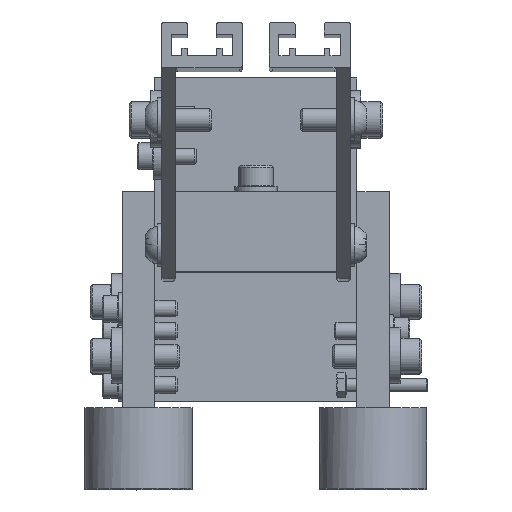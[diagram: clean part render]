
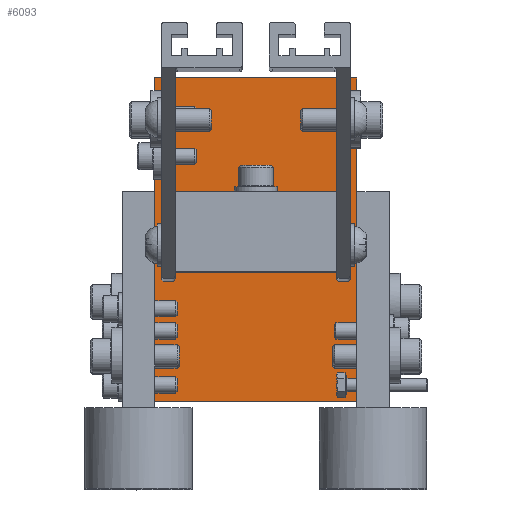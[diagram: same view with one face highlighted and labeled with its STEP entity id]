
A CAD part, top view. The second image highlights one B-rep face of the part: STEP entity #6093.
In plain terms, the highlighted planar face has unit normal (0, 0, 1).
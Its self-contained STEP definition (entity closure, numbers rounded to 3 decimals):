
#363=LINE('',#10054,#747);
#366=LINE('',#10060,#750);
#432=LINE('',#10274,#816);
#433=LINE('',#10276,#817);
#434=LINE('',#10278,#818);
#435=LINE('',#10280,#819);
#436=LINE('',#10282,#820);
#437=LINE('',#10284,#821);
#438=LINE('',#10286,#822);
#439=LINE('',#10287,#823);
#747=VECTOR('',#8121,1000.);
#750=VECTOR('',#8124,1000.);
#816=VECTOR('',#8274,1000.);
#817=VECTOR('',#8275,1000.);
#818=VECTOR('',#8276,1000.);
#819=VECTOR('',#8277,1000.);
#820=VECTOR('',#8278,1000.);
#821=VECTOR('',#8279,1000.);
#822=VECTOR('',#8280,1000.);
#823=VECTOR('',#8281,1000.);
#1049=PLANE('',#6753);
#2072=ORIENTED_EDGE('',*,*,#3230,.F.);
#2073=ORIENTED_EDGE('',*,*,#3231,.T.);
#2074=ORIENTED_EDGE('',*,*,#3232,.T.);
#2075=ORIENTED_EDGE('',*,*,#3233,.T.);
#2076=ORIENTED_EDGE('',*,*,#3234,.F.);
#2077=ORIENTED_EDGE('',*,*,#3235,.T.);
#2078=ORIENTED_EDGE('',*,*,#3236,.T.);
#2079=ORIENTED_EDGE('',*,*,#3134,.F.);
#2080=ORIENTED_EDGE('',*,*,#3237,.F.);
#2081=ORIENTED_EDGE('',*,*,#3131,.F.);
#3131=EDGE_CURVE('',#3804,#3805,#363,.T.);
#3134=EDGE_CURVE('',#3806,#3807,#366,.T.);
#3230=EDGE_CURVE('',#3895,#3804,#432,.T.);
#3231=EDGE_CURVE('',#3895,#3896,#433,.T.);
#3232=EDGE_CURVE('',#3896,#3897,#434,.T.);
#3233=EDGE_CURVE('',#3897,#3898,#435,.T.);
#3234=EDGE_CURVE('',#3899,#3898,#436,.T.);
#3235=EDGE_CURVE('',#3899,#3900,#437,.T.);
#3236=EDGE_CURVE('',#3900,#3807,#438,.T.);
#3237=EDGE_CURVE('',#3805,#3806,#439,.T.);
#3804=VERTEX_POINT('',#10055);
#3805=VERTEX_POINT('',#10056);
#3806=VERTEX_POINT('',#10059);
#3807=VERTEX_POINT('',#10061);
#3895=VERTEX_POINT('',#10275);
#3896=VERTEX_POINT('',#10277);
#3897=VERTEX_POINT('',#10279);
#3898=VERTEX_POINT('',#10281);
#3899=VERTEX_POINT('',#10283);
#3900=VERTEX_POINT('',#10285);
#4764=EDGE_LOOP('',(#2072,#2073,#2074,#2075,#2076,#2077,#2078,#2079,#2080,
#2081));
#5448=FACE_BOUND('',#4764,.T.);
#6093=ADVANCED_FACE('',(#5448),#1049,.T.);
#6753=AXIS2_PLACEMENT_3D('',#10273,#8272,#8273);
#8121=DIRECTION('',(0.,1.,0.));
#8124=DIRECTION('',(0.,1.,0.));
#8272=DIRECTION('',(0.,0.,1.));
#8273=DIRECTION('',(1.,0.,0.));
#8274=DIRECTION('',(-1.,0.,0.));
#8275=DIRECTION('',(0.,1.,0.));
#8276=DIRECTION('',(0.,1.,0.));
#8277=DIRECTION('',(0.,1.,0.));
#8278=DIRECTION('',(0.,-1.,0.));
#8279=DIRECTION('',(-1.,0.,0.));
#8280=DIRECTION('',(0.,-1.,0.));
#8281=DIRECTION('',(0.,1.,0.));
#10054=CARTESIAN_POINT('',(-37.5,-19.5,-735.));
#10055=CARTESIAN_POINT('',(-37.5,-139.5,-735.));
#10056=CARTESIAN_POINT('',(-37.5,-106.75,-735.));
#10059=CARTESIAN_POINT('',(-37.5,-98.25,-735.));
#10060=CARTESIAN_POINT('',(-37.5,-19.5,-735.));
#10061=CARTESIAN_POINT('',(-37.5,-62.5,-735.));
#10273=CARTESIAN_POINT('',(37.5,-19.5,-735.));
#10274=CARTESIAN_POINT('',(37.5,-139.5,-735.));
#10275=CARTESIAN_POINT('',(37.5,-139.5,-735.));
#10276=CARTESIAN_POINT('',(37.5,-19.5,-735.));
#10277=CARTESIAN_POINT('',(37.5,-106.75,-735.));
#10278=CARTESIAN_POINT('',(37.5,-62.5,-735.));
#10279=CARTESIAN_POINT('',(37.5,-98.25,-735.));
#10280=CARTESIAN_POINT('',(37.5,-19.5,-735.));
#10281=CARTESIAN_POINT('',(37.5,-62.5,-735.));
#10282=CARTESIAN_POINT('',(37.5,-102.5,-735.));
#10283=CARTESIAN_POINT('',(37.5,-19.5,-735.));
#10284=CARTESIAN_POINT('',(37.5,-19.5,-735.));
#10285=CARTESIAN_POINT('',(-37.5,-19.5,-735.));
#10286=CARTESIAN_POINT('',(-37.5,-19.5,-735.));
#10287=CARTESIAN_POINT('',(-37.5,-19.5,-735.));
